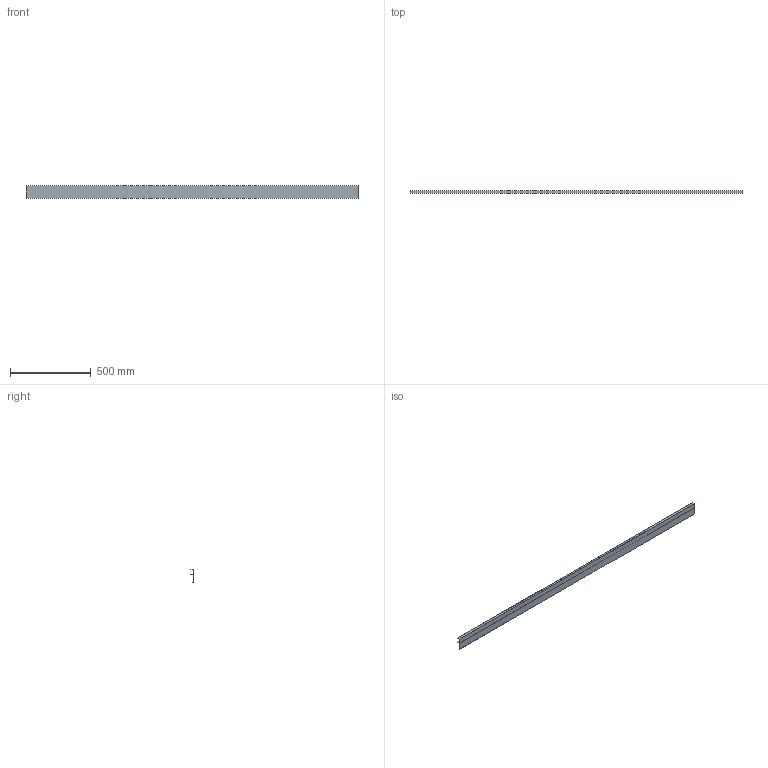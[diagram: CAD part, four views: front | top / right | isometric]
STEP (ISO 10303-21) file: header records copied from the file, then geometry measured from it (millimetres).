
FILE_DESCRIPTION(('STEP AP242'),'1');
FILE_NAME('OPO_65.082.11_volu_3d.stp','2026-01-30T20:52:55',(' '),(' '),'Spatial InterOp 3D',' ',' ');
FILE_SCHEMA(('AP242_MANAGED_MODEL_BASED_3D_ENGINEERING_MIM_LF {1 0 10303 442 1 1 4}'));
Length unit declared in the file: millimetre
Products named in the file (1): 1
Bounding box: 2050 x 15.5 x 79 mm (x, y, z)
Volume: 229600 mm3; surface area: 463524 mm2
Topology: 1 solids, 1 shells, 60 faces, 160 edges, 106 vertices
Faces by surface type: plane 40, cylinder 20
Entity records: 2364 total; most frequent: CARTESIAN_POINT 327, DIRECTION 322, ORIENTED_EDGE 320, EDGE_CURVE 160, LINE 120, VECTOR 120, VERTEX_POINT 106, AXIS2_PLACEMENT_3D 101
